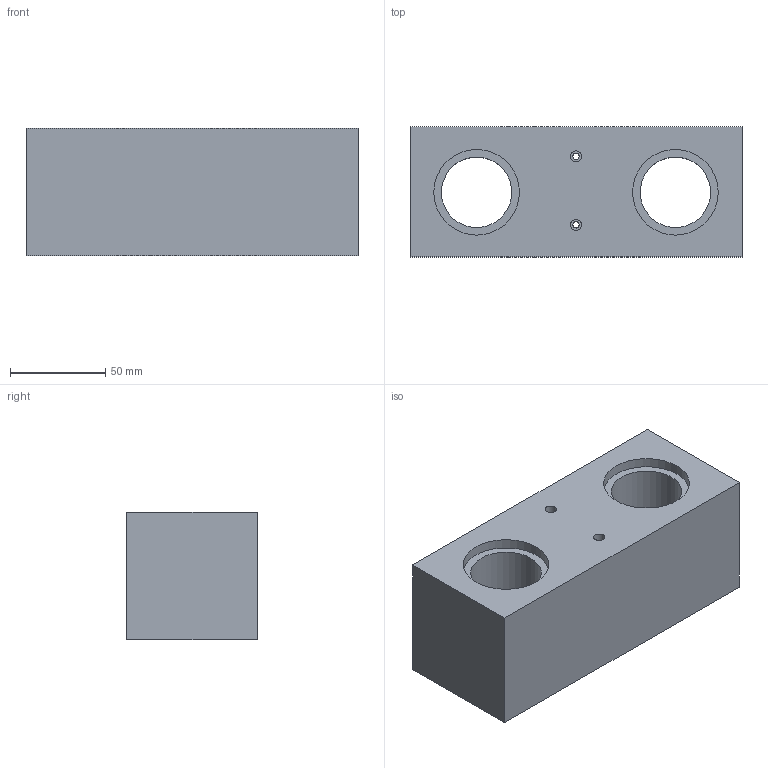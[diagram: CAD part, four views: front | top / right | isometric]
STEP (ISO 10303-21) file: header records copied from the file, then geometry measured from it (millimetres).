
FILE_DESCRIPTION(('Open CASCADE Model'),'2;1');
FILE_NAME('Open CASCADE Shape Model','1970-01-01T00:00:00',('Author'),( 'Open CASCADE'),'Open CASCADE STEP processor 7.8','Open CASCADE 7.8' ,'Unknown');
FILE_SCHEMA(('AUTOMOTIVE_DESIGN { 1 0 10303 214 1 1 1 1 }'));
Length unit declared in the file: millimetre
Products named in the file (2): Open CASCADE STEP translator 7.8 6; enclosure-pump-cap
Assembly tree (1 placements, depth 2):
  Open CASCADE STEP translator 7.8 6
    enclosure-pump-cap
Bounding box: 174.45 x 68.41 x 67.25 mm (x, y, z)
Volume: 627783.3 mm3; surface area: 71607.2 mm2
Topology: 1 solids, 1 shells, 68 faces, 180 edges, 120 vertices
Faces by surface type: plane 60, cylinder 8
Full cylindrical faces by diameter (mm): 3.3 x2, 5.8 x2, 37 x2, 45 x2
Entity records: 4383 total; most frequent: CARTESIAN_POINT 838, DIRECTION 598, LINE 412, VECTOR 412, ORIENTED_EDGE 360, PCURVE 360, DEFINITIONAL_REPRESENTATION 360, EDGE_CURVE 180
